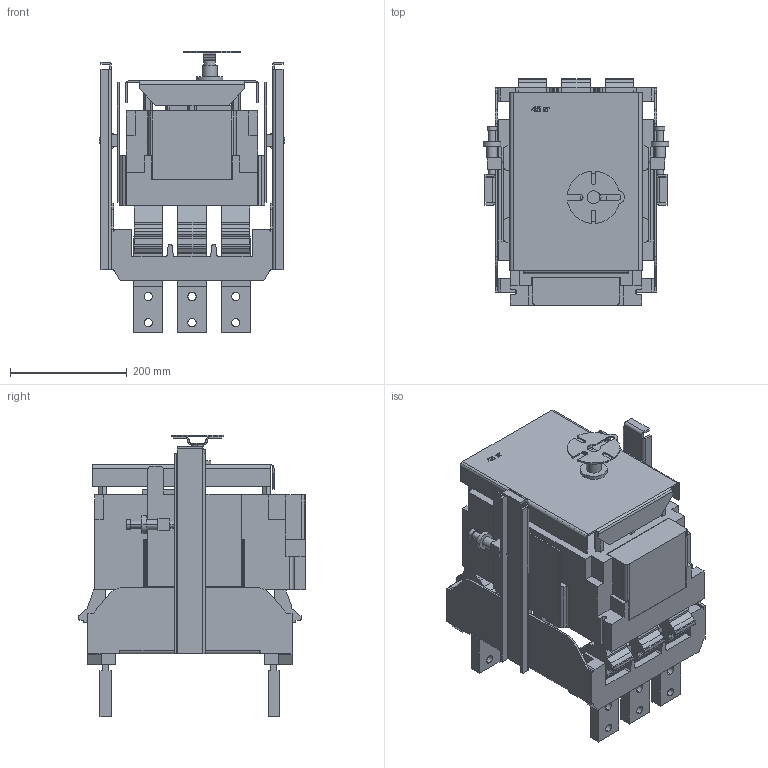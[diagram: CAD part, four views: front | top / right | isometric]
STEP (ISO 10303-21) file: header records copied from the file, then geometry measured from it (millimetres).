
FILE_DESCRIPTION (( 'STEP AP214' ), '1' );
FILE_NAME ('ÂÀ53(55)-41 ÂÈ ñ ðó÷íûì äèñòàíöèîííûì ïðèâîäîì.STEP', '2023-02-13T11:27:16', ( 'user' ), ( '' ), 'SwSTEP 2.0', 'SolidWorks 2018', '' );
FILE_SCHEMA (( 'AUTOMOTIVE_DESIGN' ));
Length unit declared in the file: millimetre
Products named in the file (1): ÂÀ53(55)-41 ÂÈ ñ ðó÷íûì äèñòàíöèîííûì ïðèâîäîì
Bounding box: 318 x 388.85 x 481.85 mm (x, y, z)
Volume: 17307378.3 mm3; surface area: 1408334.4 mm2
Topology: 1 solids, 1 shells, 883 faces, 2610 edges, 1741 vertices
Faces by surface type: plane 612, cylinder 260, cone 7, bspline 4
Entity records: 29819 total; most frequent: CARTESIAN_POINT 5600, ORIENTED_EDGE 5212, DIRECTION 4857, EDGE_CURVE 2606, VECTOR 2041, LINE 2041, VERTEX_POINT 1741, AXIS2_PLACEMENT_3D 1408
